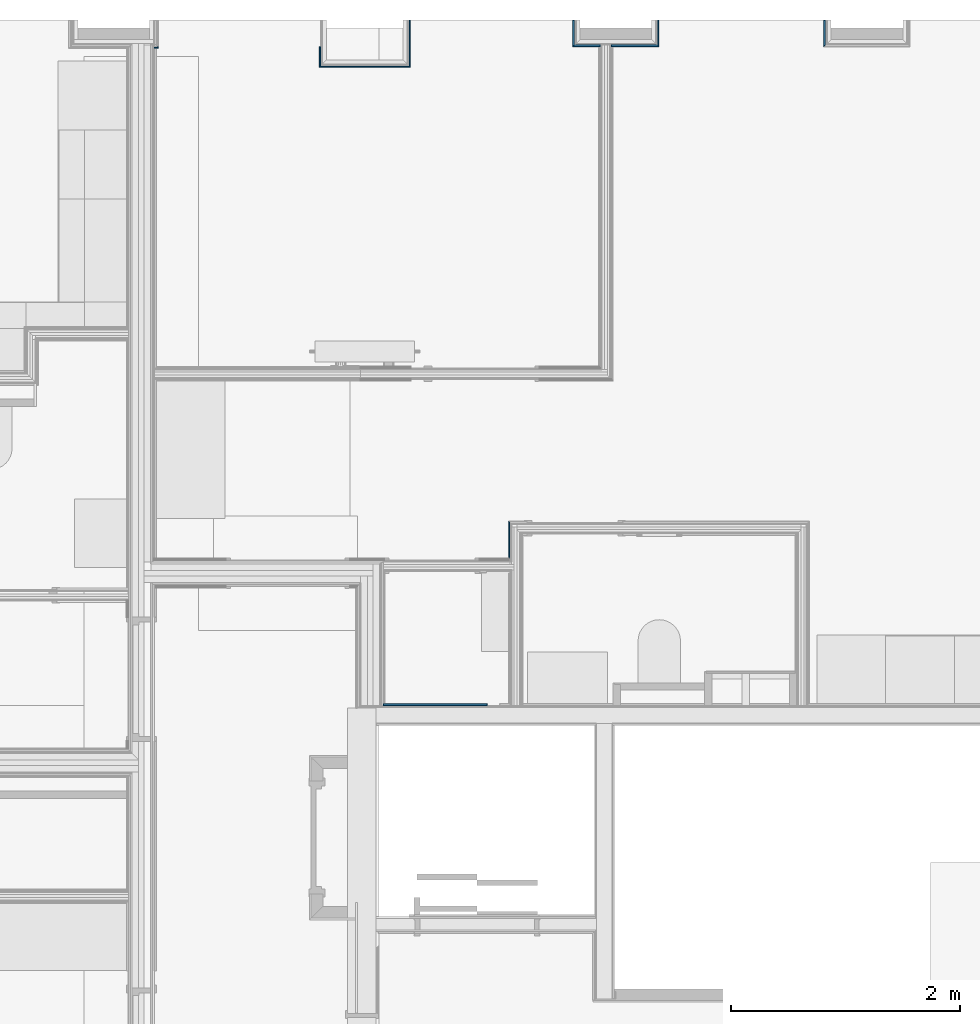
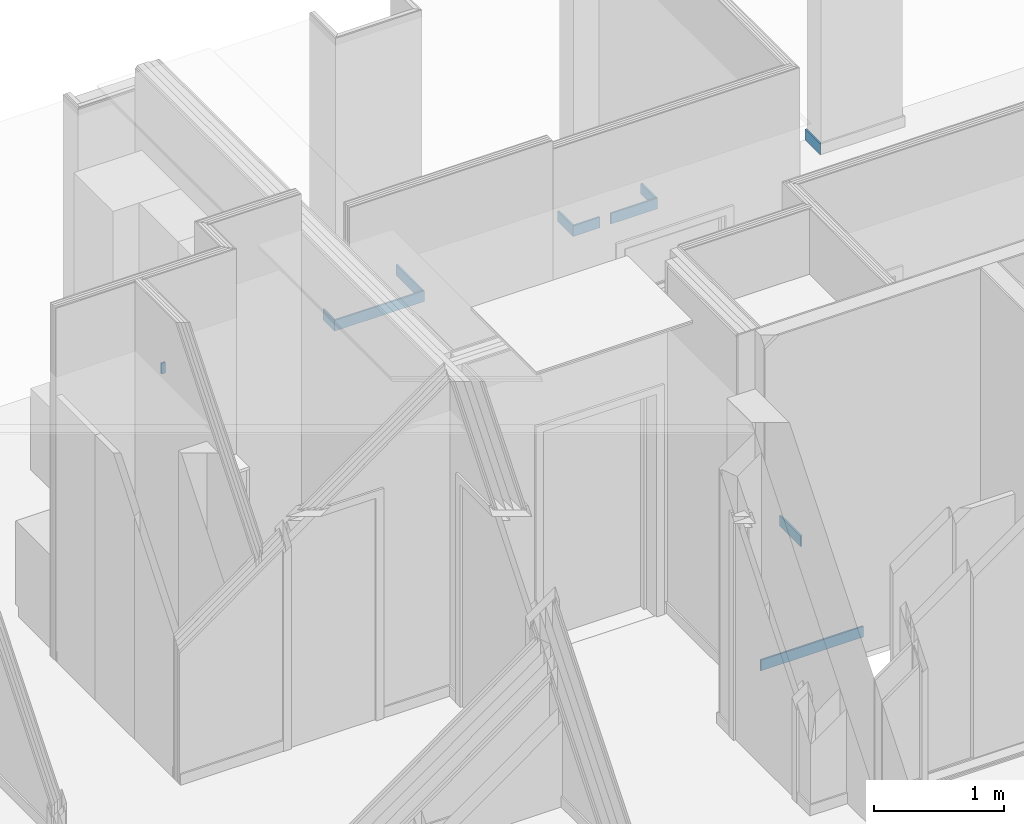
# One storey, part 35 of 65: 11 building element parts, 10 elements without a shape of their own.
"""IFC2X3 building model written with IfcOpenShell, lengths in metres."""

from ifc_helpers import new_model, entity, si_unit, converted_unit, derived_unit, money_unit, direction, frame, frame_2d, origin_with_axes, place, context, subcontext, project, spatial, polyline, rectangle, outline, extrude, material, type_object, element, aggregate, save


model = new_model("IFC2X3")

# Units and contexts
model_context = context("Model", 3, precision=1e-05, world=origin_with_axes(), true_north=direction((0.0, 1.0)))
body_context = subcontext(model_context, "Body", "Model", "MODEL_VIEW", scale=1.0)
ifc_project = project(units=[si_unit("LENGTHUNIT", "METRE"), si_unit("AREAUNIT", "SQUARE_METRE"), si_unit("VOLUMEUNIT", "CUBIC_METRE"), si_unit("ABSORBEDDOSEUNIT", "GRAY"), si_unit("AMOUNTOFSUBSTANCEUNIT", "MOLE"), si_unit("DOSEEQUIVALENTUNIT", "SIEVERT"), si_unit("ELECTRICCAPACITANCEUNIT", "FARAD"), si_unit("ELECTRICCHARGEUNIT", "COULOMB"), si_unit("ELECTRICCONDUCTANCEUNIT", "SIEMENS"), si_unit("ELECTRICCURRENTUNIT", "AMPERE"), si_unit("ELECTRICRESISTANCEUNIT", "OHM"), si_unit("ELECTRICVOLTAGEUNIT", "VOLT"), si_unit("ENERGYUNIT", "JOULE"), si_unit("FORCEUNIT", "NEWTON"), si_unit("FREQUENCYUNIT", "HERTZ"), si_unit("ILLUMINANCEUNIT", "LUX"), si_unit("INDUCTANCEUNIT", "HENRY"), si_unit("LUMINOUSFLUXUNIT", "LUMEN"), si_unit("LUMINOUSINTENSITYUNIT", "CANDELA"), si_unit("MAGNETICFLUXDENSITYUNIT", "TESLA"), si_unit("MAGNETICFLUXUNIT", "WEBER"), si_unit("MASSUNIT", "GRAM"), converted_unit("PLANEANGLEUNIT", "degree", entity("IfcReal", 0.0174532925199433), si_unit("PLANEANGLEUNIT", "RADIAN"), dimensions=[0, 0, 0, 0, 0, 0, 0]), si_unit("POWERUNIT", "WATT"), si_unit("PRESSUREUNIT", "PASCAL"), si_unit("RADIOACTIVITYUNIT", "BECQUEREL"), si_unit("SOLIDANGLEUNIT", "STERADIAN"), si_unit("THERMODYNAMICTEMPERATUREUNIT", "KELVIN"), si_unit("TIMEUNIT", "SECOND"), derived_unit("ACCELERATIONUNIT", [(si_unit("LENGTHUNIT", "METRE"), 1), (si_unit("TIMEUNIT", "SECOND"), -2)]), derived_unit("ANGULARVELOCITYUNIT", [(converted_unit("PLANEANGLEUNIT", "degree", entity("IfcReal", 0.0174532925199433), si_unit("PLANEANGLEUNIT", "RADIAN"), dimensions=[0, 0, 0, 0, 0, 0, 0]), 1), (si_unit("TIMEUNIT", "SECOND"), -1)]), derived_unit("CURVATUREUNIT", [(converted_unit("PLANEANGLEUNIT", "degree", entity("IfcReal", 0.0174532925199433), si_unit("PLANEANGLEUNIT", "RADIAN"), dimensions=[0, 0, 0, 0, 0, 0, 0]), 1), (si_unit("LENGTHUNIT", "METRE"), -1)]), derived_unit("DYNAMICVISCOSITYUNIT", [(si_unit("PRESSUREUNIT", "PASCAL"), 1), (si_unit("TIMEUNIT", "SECOND"), 1)]), derived_unit("HEATFLUXDENSITYUNIT", [(si_unit("POWERUNIT", "WATT"), 1), (si_unit("LENGTHUNIT", "METRE"), -2)]), derived_unit("HEATINGVALUEUNIT", [(si_unit("ENERGYUNIT", "JOULE"), 1), (si_unit("MASSUNIT", "GRAM"), -1)]), derived_unit("INTEGERCOUNTRATEUNIT", [(si_unit("TIMEUNIT", "SECOND"), -1)]), derived_unit("IONCONCENTRATIONUNIT", [(si_unit("MASSUNIT", "GRAM"), 1), (si_unit("VOLUMEUNIT", "CUBIC_METRE"), -1)]), derived_unit("ISOTHERMALMOISTURECAPACITYUNIT", [(si_unit("VOLUMEUNIT", "CUBIC_METRE"), 1), (si_unit("MASSUNIT", "GRAM"), -1)]), derived_unit("KINEMATICVISCOSITYUNIT", [(si_unit("AREAUNIT", "SQUARE_METRE"), 1), (si_unit("TIMEUNIT", "SECOND"), -1)]), derived_unit("LINEARFORCEUNIT", [(si_unit("FORCEUNIT", "NEWTON"), 1), (si_unit("LENGTHUNIT", "METRE"), -1)]), derived_unit("LINEARMOMENTUNIT", [(si_unit("FORCEUNIT", "NEWTON"), 1), (si_unit("LENGTHUNIT", "METRE"), -1)]), derived_unit("LINEARSTIFFNESSUNIT", [(si_unit("FORCEUNIT", "NEWTON"), 1), (si_unit("LENGTHUNIT", "METRE"), -1)]), derived_unit("LINEARVELOCITYUNIT", [(si_unit("LENGTHUNIT", "METRE"), 1), (si_unit("TIMEUNIT", "SECOND"), -1)]), derived_unit("LUMINOUSINTENSITYDISTRIBUTIONUNIT", [(si_unit("LUMINOUSINTENSITYUNIT", "CANDELA"), 1), (si_unit("LUMINOUSFLUXUNIT", "LUMEN"), -1)]), derived_unit("MASSDENSITYUNIT", [(si_unit("MASSUNIT", "GRAM"), 1), (si_unit("VOLUMEUNIT", "CUBIC_METRE"), -1)]), derived_unit("MASSFLOWRATEUNIT", [(si_unit("MASSUNIT", "GRAM"), 1), (si_unit("TIMEUNIT", "SECOND"), -1)]), derived_unit("MASSPERLENGTHUNIT", [(si_unit("MASSUNIT", "GRAM"), 1), (si_unit("LENGTHUNIT", "METRE"), -1)]), derived_unit("MODULUSOFELASTICITYUNIT", [(si_unit("FORCEUNIT", "NEWTON"), 1), (si_unit("AREAUNIT", "SQUARE_METRE"), -1)]), derived_unit("MODULUSOFLINEARSUBGRADEREACTIONUNIT", [(si_unit("FORCEUNIT", "NEWTON"), 1), (si_unit("LENGTHUNIT", "METRE"), -2)]), derived_unit("MODULUSOFROTATIONALSUBGRADEREACTIONUNIT", [(si_unit("FORCEUNIT", "NEWTON"), 1), (si_unit("LENGTHUNIT", "METRE"), 1)]), derived_unit("MODULUSOFSUBGRADEREACTIONUNIT", [(si_unit("FORCEUNIT", "NEWTON"), 1), (si_unit("VOLUMEUNIT", "CUBIC_METRE"), -1)]), derived_unit("MOISTUREDIFFUSIVITYUNIT", [(si_unit("VOLUMEUNIT", "CUBIC_METRE"), 1), (si_unit("TIMEUNIT", "SECOND"), -1)]), derived_unit("MOLECULARWEIGHTUNIT", [(si_unit("MASSUNIT", "GRAM"), 1), (si_unit("AMOUNTOFSUBSTANCEUNIT", "MOLE"), -1)]), derived_unit("PLANARFORCEUNIT", [(si_unit("FORCEUNIT", "NEWTON"), 1), (si_unit("LENGTHUNIT", "METRE"), -2)]), derived_unit("ROTATIONALFREQUENCYUNIT", [(si_unit("TIMEUNIT", "SECOND"), -1)]), derived_unit("ROTATIONALMASSUNIT", [(si_unit("MASSUNIT", "GRAM"), 1), (si_unit("LENGTHUNIT", "METRE"), 2)]), derived_unit("ROTATIONALSTIFFNESSUNIT", [(si_unit("FORCEUNIT", "NEWTON"), 1), (si_unit("LENGTHUNIT", "METRE"), 1), (converted_unit("PLANEANGLEUNIT", "degree", entity("IfcReal", 0.0174532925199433), si_unit("PLANEANGLEUNIT", "RADIAN"), dimensions=[0, 0, 0, 0, 0, 0, 0]), -1)]), derived_unit("SECTIONAREAINTEGRALUNIT", [(si_unit("LENGTHUNIT", "METRE"), 5)]), derived_unit("SECTIONMODULUSUNIT", [(si_unit("LENGTHUNIT", "METRE"), 3)]), derived_unit("SHEARMODULUSUNIT", [(si_unit("FORCEUNIT", "NEWTON"), 1), (si_unit("AREAUNIT", "SQUARE_METRE"), -1)]), derived_unit("SOUNDPOWERUNIT", [(si_unit("ENERGYUNIT", "JOULE"), 1), (si_unit("TIMEUNIT", "SECOND"), -1)]), derived_unit("SPECIFICHEATCAPACITYUNIT", [(si_unit("FORCEUNIT", "NEWTON"), 1), (si_unit("MASSUNIT", "GRAM"), -1), (si_unit("THERMODYNAMICTEMPERATUREUNIT", "KELVIN"), -1)]), derived_unit("TEMPERATUREGRADIENTUNIT", [(si_unit("THERMODYNAMICTEMPERATUREUNIT", "KELVIN"), 1), (si_unit("LENGTHUNIT", "METRE"), -1)]), derived_unit("THERMALADMITTANCEUNIT", [(si_unit("POWERUNIT", "WATT"), 1), (si_unit("AREAUNIT", "SQUARE_METRE"), -1), (si_unit("THERMODYNAMICTEMPERATUREUNIT", "KELVIN"), -1)]), derived_unit("THERMALCONDUCTANCEUNIT", [(si_unit("POWERUNIT", "WATT"), 1), (si_unit("LENGTHUNIT", "METRE"), -1), (si_unit("THERMODYNAMICTEMPERATUREUNIT", "KELVIN"), -1)]), derived_unit("THERMALEXPANSIONCOEFFICIENTUNIT", [(si_unit("THERMODYNAMICTEMPERATUREUNIT", "KELVIN"), -1)]), derived_unit("THERMALRESISTANCEUNIT", [(si_unit("AREAUNIT", "SQUARE_METRE"), 1), (si_unit("POWERUNIT", "WATT"), -1)]), derived_unit("THERMALTRANSMITTANCEUNIT", [(si_unit("POWERUNIT", "WATT"), 1), (si_unit("AREAUNIT", "SQUARE_METRE"), -1), (si_unit("THERMODYNAMICTEMPERATUREUNIT", "KELVIN"), -1)]), derived_unit("TORQUEUNIT", [(si_unit("FORCEUNIT", "NEWTON"), 1), (si_unit("LENGTHUNIT", "METRE"), 1)]), derived_unit("VAPORPERMEABILITYUNIT", [(si_unit("MASSUNIT", "GRAM"), 1), (si_unit("TIMEUNIT", "SECOND"), -1)]), derived_unit("VOLUMETRICFLOWRATEUNIT", [(si_unit("VOLUMEUNIT", "CUBIC_METRE"), 1), (si_unit("TIMEUNIT", "SECOND"), -1)]), derived_unit("WARPINGCONSTANTUNIT", [(si_unit("LENGTHUNIT", "METRE"), 6)]), derived_unit("WARPINGMOMENTUNIT", [(si_unit("FORCEUNIT", "NEWTON"), 1), (si_unit("LENGTHUNIT", "METRE"), 2)]), money_unit("GBP")], contexts=[model_context])

# Site, building, storey
site_placement = place(None, origin_with_axes())
site = spatial("IfcSite", under=ifc_project, at=site_placement, Name="Site", CompositionType="ELEMENT")
building_placement = place(site_placement, origin_with_axes())
building = spatial("IfcBuilding", under=site, at=building_placement, Name="Building01", CompositionType="ELEMENT")
storey_placement = place(building_placement, frame((0.0, 0.0, 8.64), z_axis=(0.0, 0.0, 1.0), x_axis=(1.0, 0.0, 0.0)))
storey = spatial("IfcBuildingStorey", under=building, at=storey_placement, Name="2F", CompositionType="ELEMENT", Elevation=8.64)

# Wall, building element part
wall_type_1 = type_object("IfcWallType", Name="SHE_A-Walls_Type06d_ExternalWallInsulation_48mm", PredefinedType="NOTDEFINED")
wall_1_placement = place(storey_placement, frame((9.46, 14.8, 0.0), z_axis=(0.0, 0.0, 1.0), x_axis=(0.0, -1.0, 0.0)))
wall_1 = element("IfcWall", 1, at=wall_1_placement, inside=storey, type_object=wall_type_1, Name="6D", ObjectType="SHE_A-Walls_Type06d_ExternalWallInsulation_48mm")
ifc_material = material(Name="A_BSUK_Walls_Timber")
building_element_part_1_placement = place(wall_1_placement, origin_with_axes())
building_element_part_1 = element("IfcBuildingElementPart", 2, at=building_element_part_1_placement, material=ifc_material, Name="3", context=body_context, shape_type="SweptSolid", body=[
    extrude(outline(polyline([(0.413, 0.063), (0.0, 0.063), (0.0, 0.048), (0.398, 0.048), (0.413, 0.063)])), frame((0.0, 0.0, 0.015), z_axis=(0.0, 0.0, 1.0), x_axis=(1.0, 0.0, 0.0)), (0.0, 0.0, 1.0), 0.1),
])
aggregate(wall_1, [building_element_part_1])

wall_2_placement = place(storey_placement, frame((9.46, 14.45, 0.0), z_axis=(0.0, 0.0, 1.0), x_axis=(-1.0, 0.0, 0.0)))
wall_2 = element("IfcWall", 3, at=wall_2_placement, inside=storey, type_object=wall_type_1, Name="6D", ObjectType="SHE_A-Walls_Type06d_ExternalWallInsulation_48mm")
building_element_part_2_placement = place(wall_2_placement, origin_with_axes())
building_element_part_2 = element("IfcBuildingElementPart", 4, at=building_element_part_2_placement, material=ifc_material, Name="3", context=body_context, shape_type="SweptSolid", body=[
    extrude(outline(polyline([(0.733, 0.063), (-0.063, 0.063), (-0.048, 0.048), (0.718, 0.048), (0.733, 0.063)])), frame((0.0, 0.0, 0.015), z_axis=(0.0, 0.0, 1.0), x_axis=(1.0, 0.0, 0.0)), (0.0, 0.0, 1.0), 0.1),
])
aggregate(wall_2, [building_element_part_2])

wall_3_placement = place(storey_placement, frame((8.79, 14.45, 0.0), z_axis=(0.0, 0.0, 1.0), x_axis=(0.0, 1.0, 0.0)))
wall_3 = element("IfcWall", 5, at=wall_3_placement, inside=storey, type_object=wall_type_1, Name="6D", ObjectType="SHE_A-Walls_Type06d_ExternalWallInsulation_48mm")
building_element_part_3_placement = place(wall_3_placement, origin_with_axes())
building_element_part_3 = element("IfcBuildingElementPart", 6, at=building_element_part_3_placement, material=ifc_material, Name="3", context=body_context, shape_type="SweptSolid", body=[
    extrude(outline(polyline([(-0.063, 0.063), (-0.048, 0.048), (0.117, 0.048), (0.117, 0.063), (-0.063, 0.063)])), frame((0.0, 0.0, 0.015), z_axis=(0.0, 0.0, 1.0), x_axis=(1.0, 0.0, 0.0)), (0.0, 0.0, 1.0), 0.1),
])
aggregate(wall_3, [building_element_part_3])

wall_4_placement = place(storey_placement, frame((11.627, 14.8, 0.0), z_axis=(0.0, 0.0, 1.0), x_axis=(0.0, -1.0, 0.0)))
wall_4 = element("IfcWall", 7, at=wall_4_placement, inside=storey, type_object=wall_type_1, Name="6D", ObjectType="SHE_A-Walls_Type06d_ExternalWallInsulation_48mm")
building_element_part_4_placement = place(wall_4_placement, origin_with_axes())
building_element_part_4 = element("IfcBuildingElementPart", 8, at=building_element_part_4_placement, material=ifc_material, Name="3", context=body_context, shape_type="SweptSolid", body=[
    extrude(outline(polyline([(0.233, 0.063), (0.0, 0.063), (0.0, 0.048), (0.218, 0.048), (0.233, 0.063)])), frame((0.0, 0.0, 0.015), z_axis=(0.0, 0.0, 1.0), x_axis=(1.0, 0.0, 0.0)), (0.0, 0.0, 1.0), 0.1),
])
aggregate(wall_4, [building_element_part_4])

wall_5_placement = place(storey_placement, frame((11.003, 14.63, 0.0), z_axis=(0.0, 0.0, 1.0), x_axis=(0.0, 1.0, 0.0)))
wall_5 = element("IfcWall", 9, at=wall_5_placement, inside=storey, type_object=wall_type_1, Name="6D", ObjectType="SHE_A-Walls_Type06d_ExternalWallInsulation_48mm")
building_element_part_5_placement = place(wall_5_placement, origin_with_axes())
building_element_part_5 = element("IfcBuildingElementPart", 10, at=building_element_part_5_placement, material=ifc_material, Name="3", context=body_context, shape_type="SweptSolid", body=[
    extrude(outline(polyline([(-0.063, 0.063), (-0.048, 0.048), (0.17, 0.048), (0.17, 0.063), (-0.063, 0.063)])), frame((0.0, 0.0, 0.015), z_axis=(0.0, 0.0, 1.0), x_axis=(1.0, 0.0, 0.0)), (0.0, 0.0, 1.0), 0.1),
])
aggregate(wall_5, [building_element_part_5])

wall_6_placement = place(storey_placement, frame((13.193, 14.63, 0.0), z_axis=(0.0, 0.0, 1.0), x_axis=(0.0, 1.0, 0.0)))
wall_6 = element("IfcWall", 11, at=wall_6_placement, inside=storey, type_object=wall_type_1, Name="6D", ObjectType="SHE_A-Walls_Type06d_ExternalWallInsulation_48mm")
building_element_part_6_placement = place(wall_6_placement, origin_with_axes())
building_element_part_6 = element("IfcBuildingElementPart", 12, at=building_element_part_6_placement, material=ifc_material, Name="3", context=body_context, shape_type="SweptSolid", body=[
    extrude(outline(polyline([(-0.063, 0.063), (-0.048, 0.048), (0.17, 0.048), (0.17, 0.063), (-0.063, 0.063)])), frame((0.0, 0.0, 0.015), z_axis=(0.0, 0.0, 1.0), x_axis=(1.0, 0.0, 0.0)), (0.0, 0.0, 1.0), 0.1),
])
aggregate(wall_6, [building_element_part_6])

# Wall, building element parts
wall_7_placement = place(storey_placement, frame((11.627, 14.63, 0.0), z_axis=(0.0, 0.0, 1.0), x_axis=(-1.0, 0.0, 0.0)))
wall_7 = element("IfcWall", 13, at=wall_7_placement, inside=storey, type_object=wall_type_1, Name="6D", ObjectType="SHE_A-Walls_Type06d_ExternalWallInsulation_48mm")
placement = place(wall_7_placement, origin_with_axes())
building_element_part_7 = element("IfcBuildingElementPart", 14, at=placement, material=ifc_material, Name="3", context=body_context, shape_type="SweptSolid", body=[
    extrude(outline(polyline([(0.352, 0.063), (-0.063, 0.063), (-0.048, 0.048), (0.352, 0.048), (0.352, 0.063)])), frame((0.0, 0.0, 0.015), z_axis=(0.0, 0.0, 1.0), x_axis=(1.0, 0.0, 0.0)), (0.0, 0.0, 1.0), 0.1),
])
building_element_part_8 = element("IfcBuildingElementPart", 15, at=placement, material=ifc_material, Name="4", context=body_context, shape_type="SweptSolid", body=[
    extrude(outline(polyline([(0.687, 0.063), (0.447, 0.063), (0.447, 0.048), (0.672, 0.048), (0.687, 0.063)])), frame((0.0, 0.0, 0.015), z_axis=(0.0, 0.0, 1.0), x_axis=(1.0, 0.0, 0.0)), (0.0, 0.0, 1.0), 0.1),
])
aggregate(wall_7, [building_element_part_7, building_element_part_8])

# Wall, building element part
wall_type_2 = type_object("IfcWallType", Name="SHE_A-Walls_Type03a_BlockworkWall_170mm", PredefinedType="NOTDEFINED")
wall_8_placement = place(storey_placement, frame((17.75, 8.805, 0.0), z_axis=(0.0, 0.0, 1.0), x_axis=(-1.0, 0.0, 0.0)))
wall_8 = element("IfcWall", 16, at=wall_8_placement, inside=storey, type_object=wall_type_2, Name="4B", ObjectType="SHE_A-Walls_Type03a_BlockworkWall_170mm")
building_element_part_9_placement = place(wall_8_placement, origin_with_axes())
building_element_part_9 = element("IfcBuildingElementPart", 17, at=building_element_part_9_placement, material=ifc_material, Name="4", context=body_context, shape_type="SweptSolid", body=[
    extrude(rectangle(XDim=0.908871, YDim=0.015, at=frame_2d((8.010565, -0.0225), x_axis=(-1.0, 0.0))), frame((0.0, 0.0, 0.015), z_axis=(0.0, 0.0, 1.0), x_axis=(1.0, 0.0, 0.0)), (0.0, 0.0, 1.0), 0.1),
])
aggregate(wall_8, [building_element_part_9])

wall_type_3 = type_object("IfcWallType", Name="SHE_A-Walls_Type05a_Partition_95mm_tall", PredefinedType="NOTDEFINED")
wall_9_placement = place(storey_placement, frame((10.453871, 8.82, 0.0), z_axis=(0.0, 0.0, 1.0), x_axis=(0.0, 1.0, 0.0)))
wall_9 = element("IfcWall", 18, at=wall_9_placement, inside=storey, type_object=wall_type_3, Name="5A", ObjectType="SHE_A-Walls_Type05a_Partition_95mm_tall")
building_element_part_10_placement = place(wall_9_placement, origin_with_axes())
building_element_part_10 = element("IfcBuildingElementPart", 19, at=building_element_part_10_placement, material=ifc_material, Name="9", context=body_context, shape_type="SweptSolid", body=[
    extrude(outline(polyline([(1.61, 0.075), (1.286537, 0.075), (1.286537, 0.06), (1.595, 0.06), (1.61, 0.075)])), frame((0.0, 0.0, 0.015), z_axis=(0.0, 0.0, 1.0), x_axis=(1.0, 0.0, 0.0)), (0.0, 0.0, 1.0), 0.1),
])
aggregate(wall_9, [building_element_part_10])

wall_type_4 = type_object("IfcWallType", Name="SHE_A-Walls_Type06f_ExternalWallInsulation_48+15mm", PredefinedType="NOTDEFINED")
wall_10_placement = place(storey_placement, frame((7.283, 14.63, 0.0), z_axis=(0.0, 0.0, 1.0), x_axis=(-1.0, 0.0, 0.0)))
wall_10 = element("IfcWall", 20, at=wall_10_placement, inside=storey, type_object=wall_type_4, Name="6F", ObjectType="SHE_A-Walls_Type06f_ExternalWallInsulation_48+15mm")
building_element_part_11_placement = place(wall_10_placement, origin_with_axes())
building_element_part_11 = element("IfcBuildingElementPart", 21, at=building_element_part_11_placement, material=ifc_material, Name="6", context=body_context, shape_type="SweptSolid", body=[
    extrude(rectangle(XDim=0.035331, YDim=0.015, at=frame_2d((-0.024334, 0.0705), x_axis=(-1.0, 0.0))), frame((0.0, 0.0, 0.015), z_axis=(0.0, 0.0, 1.0), x_axis=(1.0, 0.0, 0.0)), (0.0, 0.0, 1.0), 0.1),
])
aggregate(wall_10, [building_element_part_11])

save(model, "model.ifc")
